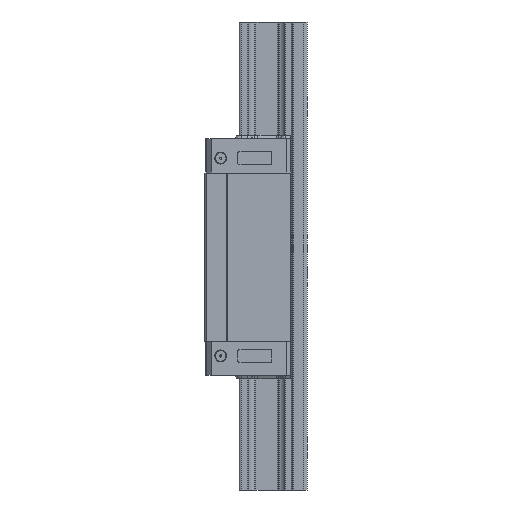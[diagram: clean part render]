
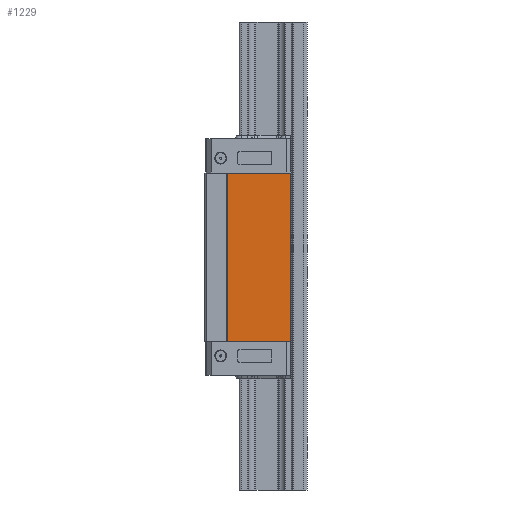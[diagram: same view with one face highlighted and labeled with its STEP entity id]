
A CAD part, left-side view. The second image highlights one B-rep face of the part: STEP entity #1229.
In plain terms, the highlighted planar face has unit normal (-1, 0, 0).
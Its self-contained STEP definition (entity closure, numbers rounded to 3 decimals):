
#825=FACE_OUTER_BOUND('',#3474,.T.);
#1229=ADVANCED_FACE('',(#825),#1654,.F.);
#1654=PLANE('',#8621);
#1919=LINE('',#11326,#2559);
#1958=LINE('',#11407,#2598);
#1973=LINE('',#11437,#2613);
#2010=LINE('',#11515,#2650);
#2559=VECTOR('',#9410,1.);
#2598=VECTOR('',#9457,1.);
#2613=VECTOR('',#9476,1.);
#2650=VECTOR('',#9551,1.);
#3474=EDGE_LOOP('',(#4387,#4388,#4389,#4390));
#4387=ORIENTED_EDGE('',*,*,#7268,.T.);
#4388=ORIENTED_EDGE('',*,*,#7324,.T.);
#4389=ORIENTED_EDGE('',*,*,#7283,.T.);
#4390=ORIENTED_EDGE('',*,*,#7229,.T.);
#6376=VERTEX_POINT('',#11325);
#6377=VERTEX_POINT('',#11327);
#6414=VERTEX_POINT('',#11406);
#6428=VERTEX_POINT('',#11438);
#7229=EDGE_CURVE('',#6377,#6376,#1919,.T.);
#7268=EDGE_CURVE('',#6376,#6414,#1958,.T.);
#7283=EDGE_CURVE('',#6428,#6377,#1973,.T.);
#7324=EDGE_CURVE('',#6414,#6428,#2010,.T.);
#8621=AXIS2_PLACEMENT_3D('',#11516,#9552,#9553);
#9410=DIRECTION('',(0.,0.,1.));
#9457=DIRECTION('',(0.,1.,0.));
#9476=DIRECTION('',(0.,-1.,0.));
#9551=DIRECTION('',(0.,0.,-1.));
#9552=DIRECTION('',(1.,0.,0.));
#9553=DIRECTION('',(0.,0.,1.));
#11325=CARTESIAN_POINT('',(-38.397,-6.483,229.013));
#11326=CARTESIAN_POINT('',(-38.397,-6.483,150.013));
#11327=CARTESIAN_POINT('',(-38.397,-6.483,150.013));
#11406=CARTESIAN_POINT('',(-38.397,23.517,229.013));
#11407=CARTESIAN_POINT('',(-38.397,-6.483,229.013));
#11437=CARTESIAN_POINT('',(-38.397,23.517,150.013));
#11438=CARTESIAN_POINT('',(-38.397,23.517,150.013));
#11515=CARTESIAN_POINT('',(-38.397,23.517,229.013));
#11516=CARTESIAN_POINT('',(-38.397,-7.983,232.963));
